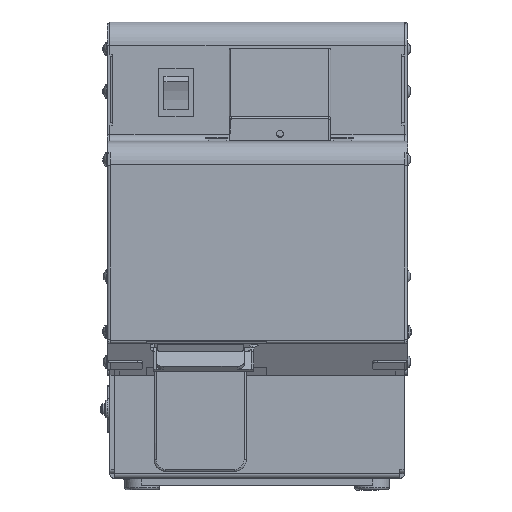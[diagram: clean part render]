
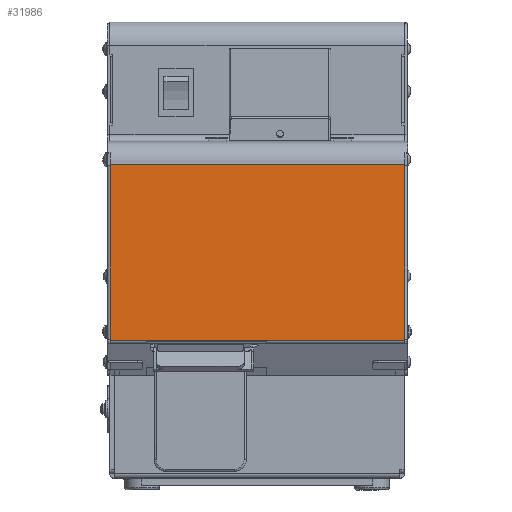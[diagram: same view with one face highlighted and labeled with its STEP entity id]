
A CAD part, front view. The second image highlights one B-rep face of the part: STEP entity #31986.
In plain terms, the highlighted planar face has unit normal (0, -1, 0).
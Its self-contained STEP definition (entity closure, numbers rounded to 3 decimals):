
#1026=PLANE('',#34533);
#4111=FACE_OUTER_BOUND('',#5941,.T.);
#5941=EDGE_LOOP('',(#26319,#26320,#26321,#26322,#26323,#26324,#26325,#26326,
#26327,#26328,#26329,#26330));
#8741=LINE('',#50392,#11699);
#8776=LINE('',#50489,#11734);
#8778=LINE('',#50492,#11736);
#8799=LINE('',#50550,#11757);
#8803=LINE('',#50559,#11761);
#8806=LINE('',#50570,#11764);
#8807=LINE('',#50574,#11765);
#8808=LINE('',#50575,#11766);
#8809=LINE('',#50577,#11767);
#8810=LINE('',#50578,#11768);
#8811=LINE('',#50579,#11769);
#8812=LINE('',#50580,#11770);
#11699=VECTOR('',#40933,0.5);
#11734=VECTOR('',#41010,75.21);
#11736=VECTOR('',#41014,75.21);
#11757=VECTOR('',#41085,52.);
#11761=VECTOR('',#41093,0.019);
#11764=VECTOR('',#41104,15.7);
#11765=VECTOR('',#41107,59.9);
#11766=VECTOR('',#41108,0.609);
#11767=VECTOR('',#41109,0.5);
#11768=VECTOR('',#41110,127.6);
#11769=VECTOR('',#41111,0.609);
#11770=VECTOR('',#41112,0.019);
#16010=VERTEX_POINT('',#50389);
#16011=VERTEX_POINT('',#50391);
#16032=VERTEX_POINT('',#50440);
#16037=VERTEX_POINT('',#50450);
#16047=VERTEX_POINT('',#50474);
#16063=VERTEX_POINT('',#50547);
#16064=VERTEX_POINT('',#50549);
#16067=VERTEX_POINT('',#50558);
#16070=VERTEX_POINT('',#50566);
#16072=VERTEX_POINT('',#50572);
#16073=VERTEX_POINT('',#50573);
#16074=VERTEX_POINT('',#50576);
#19707=EDGE_CURVE('',#16011,#16010,#8741,.T.);
#19755=EDGE_CURVE('',#16047,#16032,#8776,.T.);
#19757=EDGE_CURVE('',#16037,#16010,#8778,.T.);
#19787=EDGE_CURVE('',#16064,#16063,#8799,.T.);
#19792=EDGE_CURVE('',#16067,#16064,#8803,.T.);
#19798=EDGE_CURVE('',#16067,#16070,#8806,.T.);
#19799=EDGE_CURVE('',#16072,#16073,#8807,.T.);
#19800=EDGE_CURVE('',#16072,#16032,#8808,.T.);
#19801=EDGE_CURVE('',#16047,#16074,#8809,.T.);
#19802=EDGE_CURVE('',#16011,#16074,#8810,.T.);
#19803=EDGE_CURVE('',#16037,#16070,#8811,.T.);
#19804=EDGE_CURVE('',#16063,#16073,#8812,.T.);
#26319=ORIENTED_EDGE('',*,*,#19799,.F.);
#26320=ORIENTED_EDGE('',*,*,#19800,.T.);
#26321=ORIENTED_EDGE('',*,*,#19755,.F.);
#26322=ORIENTED_EDGE('',*,*,#19801,.T.);
#26323=ORIENTED_EDGE('',*,*,#19802,.F.);
#26324=ORIENTED_EDGE('',*,*,#19707,.T.);
#26325=ORIENTED_EDGE('',*,*,#19757,.F.);
#26326=ORIENTED_EDGE('',*,*,#19803,.T.);
#26327=ORIENTED_EDGE('',*,*,#19798,.F.);
#26328=ORIENTED_EDGE('',*,*,#19792,.T.);
#26329=ORIENTED_EDGE('',*,*,#19787,.T.);
#26330=ORIENTED_EDGE('',*,*,#19804,.T.);
#31986=ADVANCED_FACE('',(#4111),#1026,.T.);
#34533=AXIS2_PLACEMENT_3D('',#50571,#41105,#41106);
#40933=DIRECTION('',(0.,0.,-1.));
#41010=DIRECTION('',(0.,0.,-1.));
#41014=DIRECTION('',(0.,0.,1.));
#41085=DIRECTION('',(1.,0.,0.));
#41093=DIRECTION('',(0.,0.,1.));
#41104=DIRECTION('',(-1.,0.,0.));
#41105=DIRECTION('center_axis',(0.,-1.,0.));
#41106=DIRECTION('ref_axis',(1.,0.,0.));
#41107=DIRECTION('',(-1.,0.,0.));
#41108=DIRECTION('',(0.,0.,1.));
#41109=DIRECTION('',(0.,0.,1.));
#41110=DIRECTION('',(1.,0.,0.));
#41111=DIRECTION('',(0.,0.,-1.));
#41112=DIRECTION('',(0.,0.,-1.));
#50389=CARTESIAN_POINT('',(0.1,-112.032,-113.521));
#50391=CARTESIAN_POINT('',(0.1,-112.032,-113.021));
#50392=CARTESIAN_POINT('',(0.1,-112.032,-113.021));
#50440=CARTESIAN_POINT('',(127.7,-112.032,-188.731));
#50450=CARTESIAN_POINT('',(0.1,-112.032,-188.731));
#50474=CARTESIAN_POINT('',(127.7,-112.032,-113.521));
#50489=CARTESIAN_POINT('',(127.7,-112.032,-113.521));
#50492=CARTESIAN_POINT('',(0.1,-112.032,-188.731));
#50547=CARTESIAN_POINT('',(67.8,-112.032,-189.321));
#50549=CARTESIAN_POINT('',(15.8,-112.032,-189.321));
#50550=CARTESIAN_POINT('',(15.8,-112.032,-189.321));
#50558=CARTESIAN_POINT('',(15.8,-112.032,-189.34));
#50559=CARTESIAN_POINT('',(15.8,-112.032,-189.34));
#50566=CARTESIAN_POINT('',(0.1,-112.032,-189.34));
#50570=CARTESIAN_POINT('',(15.8,-112.032,-189.34));
#50571=CARTESIAN_POINT('Origin',(128.8,-112.032,-103.021));
#50572=CARTESIAN_POINT('',(127.7,-112.032,-189.34));
#50573=CARTESIAN_POINT('',(67.8,-112.032,-189.34));
#50574=CARTESIAN_POINT('',(127.7,-112.032,-189.34));
#50575=CARTESIAN_POINT('',(127.7,-112.032,-189.34));
#50576=CARTESIAN_POINT('',(127.7,-112.032,-113.021));
#50577=CARTESIAN_POINT('',(127.7,-112.032,-113.521));
#50578=CARTESIAN_POINT('',(0.1,-112.032,-113.021));
#50579=CARTESIAN_POINT('',(0.1,-112.032,-188.731));
#50580=CARTESIAN_POINT('',(67.8,-112.032,-189.321));
